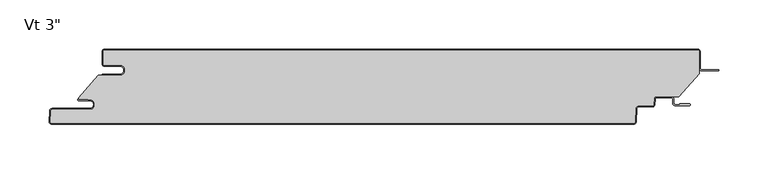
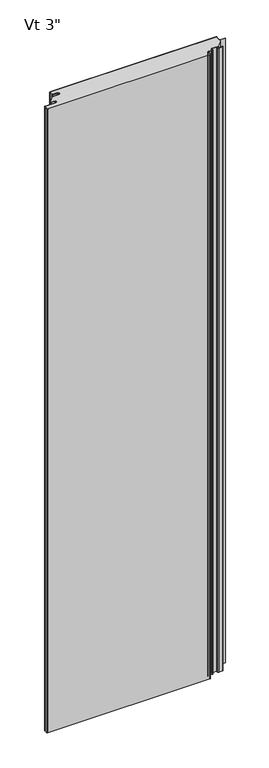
"""IFC4 building model written with IfcOpenShell, lengths in millimetres: plate geometry."""

from ifc_helpers import new_model, si_unit, point, frame, frame_2d, origin, origin_with_axes, place, context, project, spatial, polyline, circle_curve, ellipse_curve, trimmed, segment, composite_curve, outline, extrude, source, transform, mapped, element, save
from ifc_brep_helpers import plane_surface, cylinder_surface, revolved_surface, extruded_surface, advanced_brep


def plate_2396645b(model_context):
    return source(origin(), model_context, "Body", "SolidModel", [
        extrude(outline(composite_curve([segment(polyline([(-285.74375, -16.4625), (-301.61875, -16.4625)]), True, "CONTINUOUS"), segment(trimmed(circle_curve(frame_2d((-301.61875, -15.08125)), 1.38125), [point((-301.61875, -16.4625))], [point((-303.0, -15.08125))], False, "CARTESIAN"), True, "CONTINUOUS"), segment(polyline([(-303.0, -15.08125), (-303.0, -2.38125)]), True, "CONTINUOUS"), segment(trimmed(circle_curve(frame_2d((-301.61875, -2.38125)), 1.38125), [point((-303.0, -2.38125))], [point((-301.61875, -1.0))], False, "CARTESIAN"), True, "CONTINUOUS"), segment(polyline([(-301.61875, -1.0), (301.63125, -1.0)]), True, "CONTINUOUS"), segment(trimmed(circle_curve(frame_2d((301.63125, -2.38125)), 1.38125), [point((301.63125, -1.0))], [point((303.0125, -2.38125))], False, "CARTESIAN"), True, "CONTINUOUS"), segment(polyline([(303.0125, -2.38125), (303.0125, -24.9057308), (282.1955434, -48.2125), (259.7540783, -48.2125)]), True, "CONTINUOUS"), segment(trimmed(circle_curve(frame_2d((259.7540783, -50.8)), 2.5875), [point((259.7540783, -48.2125))], [point((257.1701244, -50.6645807))], True, "CARTESIAN"), True, "CONTINUOUS"), segment(polyline([(257.1701244, -50.6645807), (256.8680481, -56.428539)]), True, "CONTINUOUS"), segment(trimmed(circle_curve(frame_2d((255.4886911, -56.35625)), 1.38125), [point((256.8680481, -56.428539))], [point((255.4886911, -57.7375))], False, "CARTESIAN"), True, "CONTINUOUS"), segment(polyline([(255.4886911, -57.7375), (241.3323847, -57.7375)]), True, "CONTINUOUS"), segment(trimmed(circle_curve(frame_2d((241.3323847, -60.325)), 2.5875), [point((241.3323847, -57.7375))], [point((238.7484307, -60.1895807))], True, "CARTESIAN"), True, "CONTINUOUS"), segment(polyline([(238.7484307, -60.1895807), (238.0303677, -73.891039)]), True, "CONTINUOUS"), segment(trimmed(circle_curve(frame_2d((236.6510107, -73.81875)), 1.38125), [point((238.0303677, -73.891039))], [point((236.6510107, -75.2))], False, "CARTESIAN"), True, "CONTINUOUS"), segment(polyline([(236.6510107, -75.2), (-355.4799535, -75.2)]), True, "CONTINUOUS"), segment(trimmed(circle_curve(frame_2d((-355.4799535, -73.81875)), 1.38125), [point((-355.4799535, -75.2))], [point((-356.8593106, -73.746461))], False, "CARTESIAN"), True, "CONTINUOUS"), segment(polyline([(-356.8593106, -73.746461), (-356.2769291, -62.633961)]), True, "CONTINUOUS"), segment(trimmed(circle_curve(frame_2d((-354.8975721, -62.70625)), 1.38125), [point((-356.2769291, -62.633961))], [point((-354.8975721, -61.325))], False, "CARTESIAN"), True, "CONTINUOUS"), segment(polyline([(-354.8975721, -61.325), (-316.7142674, -61.325)]), True, "CONTINUOUS"), segment(trimmed(circle_curve(frame_2d((-316.7142674, -56.35625)), 4.96875), [point((-316.7142674, -61.325))], [point((-316.7142674, -51.3875))], True, "CARTESIAN"), True, "CONTINUOUS"), segment(polyline([(-316.7142674, -51.3875), (-318.3017674, -51.59375), (-318.3017674, -50.8), (-327.8125, -50.8), (-327.8125, -49.2157227), (-307.9260922, -26.4), (-285.74375, -26.4)]), True, "CONTINUOUS"), segment(trimmed(circle_curve(frame_2d((-285.74375, -21.43125)), 4.96875), [point((-285.74375, -26.4))], [point((-285.74375, -16.4625))], True, "CARTESIAN"), True, "CONTINUOUS")], self_intersect=False)), origin_with_axes(), (0.0, 0.0, 1.0), 2400.0),
        extrude(outline(composite_curve([segment(polyline([(-304.0, -25.4), (-285.74375, -25.4)]), True, "CONTINUOUS"), segment(trimmed(circle_curve(frame_2d((-285.74375, -21.43125)), 3.96875), [point((-285.74375, -25.4))], [point((-285.74375, -17.4625))], True, "CARTESIAN"), True, "CONTINUOUS"), segment(polyline([(-285.74375, -17.4625), (-301.61875, -17.4625)]), True, "CONTINUOUS"), segment(trimmed(circle_curve(frame_2d((-301.61875, -15.08125)), 2.38125), [point((-301.61875, -17.4625))], [point((-304.0, -15.08125))], False, "CARTESIAN"), True, "CONTINUOUS"), segment(polyline([(-304.0, -15.08125), (-304.0, -2.38125)]), True, "CONTINUOUS"), segment(trimmed(circle_curve(frame_2d((-301.61875, -2.38125)), 2.38125), [point((-304.0, -2.38125))], [point((-301.61875, 0.0))], False, "CARTESIAN"), True, "CONTINUOUS"), segment(polyline([(-301.61875, 0.0), (301.63125, 0.0)]), True, "CONTINUOUS"), segment(trimmed(circle_curve(frame_2d((301.63125, -2.38125)), 2.38125), [point((301.63125, 0.0))], [point((304.0125, -2.38125))], False, "CARTESIAN"), True, "CONTINUOUS"), segment(polyline([(304.0125, -2.38125), (304.0125, -19.446875)]), True, "CONTINUOUS"), segment(trimmed(circle_curve(frame_2d((305.6, -19.446875)), 1.5875), [point((304.0125, -19.446875))], [point((305.6, -21.034375))], True, "CARTESIAN"), True, "CONTINUOUS"), segment(polyline([(305.6, -21.034375), (323.0625, -21.034375), (323.0625, -22.034375), (305.6, -22.034375)]), True, "CONTINUOUS"), segment(trimmed(circle_curve(frame_2d((305.6, -19.446875)), 2.5875), [point((305.6, -22.034375))], [point((303.0125, -19.446875))], False, "CARTESIAN"), True, "CONTINUOUS"), segment(polyline([(303.0125, -19.446875), (303.0125, -2.38125)]), True, "CONTINUOUS"), segment(trimmed(circle_curve(frame_2d((301.63125, -2.38125)), 1.38125), [point((303.0125, -2.38125))], [point((301.63125, -1.0))], True, "CARTESIAN"), True, "CONTINUOUS"), segment(polyline([(301.63125, -1.0), (-301.61875, -1.0)]), True, "CONTINUOUS"), segment(trimmed(circle_curve(frame_2d((-301.61875, -2.38125)), 1.38125), [point((-301.61875, -1.0))], [point((-303.0, -2.38125))], True, "CARTESIAN"), True, "CONTINUOUS"), segment(polyline([(-303.0, -2.38125), (-303.0, -15.08125)]), True, "CONTINUOUS"), segment(trimmed(circle_curve(frame_2d((-301.61875, -15.08125)), 1.38125), [point((-303.0, -15.08125))], [point((-301.61875, -16.4625))], True, "CARTESIAN"), True, "CONTINUOUS"), segment(polyline([(-301.61875, -16.4625), (-285.74375, -16.4625)]), True, "CONTINUOUS"), segment(trimmed(circle_curve(frame_2d((-285.74375, -21.43125)), 4.96875), [point((-285.74375, -16.4625))], [point((-285.74375, -26.4))], False, "CARTESIAN"), True, "CONTINUOUS"), segment(polyline([(-285.74375, -26.4), (-304.0, -26.4), (-304.0, -25.4)]), True, "CONTINUOUS")], self_intersect=False)), origin_with_axes(), (0.0, 0.0, 1.0), 2400.0),
        advanced_brep(
        [(-328.0252049, -50.8, 2400.0), (-328.0252049, -52.3875, 2400.0), (-316.7142674, -52.3875, 2400.0), (-316.7142674, -60.325, 2400.0), (-354.8975721, -60.325, 2400.0), (-357.2755586, -62.581625, 2400.0), (-357.8579401, -73.694125, 2400.0), (-355.4799535, -76.2, 2400.0), (236.6510107, -76.2, 2400.0), (239.0289973, -73.943375, 2400.0), (239.7470603, -60.2419167, 2400.0), (241.3323847, -58.7375, 2400.0), (255.4886911, -58.7375, 2400.0), (257.8666776, -56.480875, 2400.0), (258.1687539, -50.7169167, 2400.0), (259.7540783, -49.2125, 2400.0), (274.6294826, -49.2125, 2400.0), (276.2169826, -50.8, 2400.0), (276.2169826, -54.9671875, 2400.0), (278.5982326, -57.3484375, 2400.0), (293.0898532, -57.3484375, 2400.0), (293.0898532, -55.5546875, 2400.0), (283.3607326, -55.5546875, 2400.0), (283.3607326, -56.3484375, 2400.0), (278.5982326, -56.3484375, 2400.0), (277.2169826, -54.9671875, 2400.0), (277.2169826, -50.8, 2400.0), (274.6294826, -48.2125, 2400.0), (259.7540783, -48.2125, 2400.0), (257.1701244, -50.6645807, 2400.0), (256.8680481, -56.428539, 2400.0), (255.4886911, -57.7375, 2400.0), (241.3323847, -57.7375, 2400.0), (238.7484307, -60.1895807, 2400.0), (238.0303677, -73.891039, 2400.0), (236.6510107, -75.2, 2400.0), (-355.4799535, -75.2, 2400.0), (-356.8593106, -73.746461, 2400.0), (-356.2769291, -62.633961, 2400.0), (-354.8975721, -61.325, 2400.0), (-316.7142674, -61.325, 2400.0), (-316.7142674, -51.3875, 2400.0), (-318.3017674, -51.59375, 2400.0), (-318.3017674, -50.8, 2400.0), (-328.0252049, -50.8, 0.0), (-318.3017674, -50.8, 0.0), (-318.3017674, -51.59375, 0.0), (-316.7142674, -51.3875, 0.0), (-316.7142674, -61.325, 0.0), (-354.8975721, -61.325, 0.0), (-356.2769291, -62.633961, 0.0), (-356.8593106, -73.746461, 0.0), (-355.4799535, -75.2, 0.0), (236.6510107, -75.2, 0.0), (238.0303677, -73.891039, 0.0), (238.7484307, -60.1895807, 0.0), (241.3323847, -57.7375, 0.0), (255.4886911, -57.7375, 0.0), (256.8680481, -56.428539, 0.0), (257.1701244, -50.6645807, 0.0), (259.7540783, -48.2125, 0.0), (274.6294826, -48.2125, 0.0), (277.2169826, -50.8, 0.0), (277.2169826, -54.9671875, 0.0), (278.5982326, -56.3484375, 0.0), (283.3607326, -56.3484375, 0.0), (283.3607326, -55.5546875, 0.0), (293.0898532, -55.5546875, 0.0), (293.0898532, -57.3484375, 0.0), (278.5982326, -57.3484375, 0.0), (276.2169826, -54.9671875, 0.0), (276.2169826, -50.8, 0.0), (274.6294826, -49.2125, 0.0), (259.7540783, -49.2125, 0.0), (258.1687539, -50.7169167, 0.0), (257.8666776, -56.480875, 0.0), (255.4886911, -58.7375, 0.0), (241.3323847, -58.7375, 0.0), (239.7470603, -60.2419167, 0.0), (239.0289973, -73.943375, 0.0), (236.6510107, -76.2, 0.0), (-355.4799535, -76.2, 0.0), (-357.8579401, -73.694125, 0.0), (-357.2755586, -62.581625, 0.0), (-354.8975721, -60.325, 0.0), (-316.7142674, -60.325, 0.0), (-316.7142674, -52.3875, 0.0), (-328.0252049, -52.3875, 0.0)],
        [
            (0, 1, circle_curve(frame((-328.0252049, -51.59375, 2400.0), z_axis=(0.0, 0.0, 1.0), x_axis=(1.0, 0.0, 0.0)), 0.79375)),
            (1, 2),
            (2, 3, circle_curve(frame((-316.7142674, -56.35625, 2400.0), z_axis=(0.0, 0.0, -1.0), x_axis=(1.0, 0.0, 0.0)), 3.96875)),
            (3, 4),
            (4, 5, circle_curve(frame((-354.8975721, -62.70625, 2400.0), z_axis=(0.0, 0.0, 1.0), x_axis=(1.0, 0.0, 0.0)), 2.38125)),
            (5, 6),
            (6, 7, circle_curve(frame((-355.4799535, -73.81875, 2400.0), z_axis=(0.0, 0.0, 1.0), x_axis=(1.0, 0.0, 0.0)), 2.38125)),
            (7, 8),
            (8, 9, circle_curve(frame((236.6510107, -73.81875, 2400.0), z_axis=(0.0, 0.0, 1.0), x_axis=(1.0, 0.0, 0.0)), 2.38125)),
            (9, 10),
            (10, 11, circle_curve(frame((241.3323847, -60.325, 2400.0), z_axis=(0.0, 0.0, -1.0), x_axis=(1.0, 0.0, 0.0)), 1.5875)),
            (11, 12),
            (12, 13, circle_curve(frame((255.4886911, -56.35625, 2400.0), z_axis=(0.0, 0.0, 1.0), x_axis=(1.0, 0.0, 0.0)), 2.38125)),
            (13, 14),
            (14, 15, circle_curve(frame((259.7540783, -50.8, 2400.0), z_axis=(0.0, 0.0, -1.0), x_axis=(1.0, 0.0, 0.0)), 1.5875)),
            (15, 16),
            (16, 17, circle_curve(frame((274.6294826, -50.8, 2400.0), z_axis=(0.0, 0.0, -1.0), x_axis=(1.0, 0.0, 0.0)), 1.5875)),
            (17, 18),
            (18, 19, circle_curve(frame((278.5982326, -54.9671875, 2400.0), z_axis=(0.0, 0.0, 1.0), x_axis=(1.0, 0.0, 0.0)), 2.38125)),
            (19, 20),
            (20, 21, ellipse_curve(frame((293.0898532, -56.4515625, 2400.0), z_axis=(0.0, 0.0, 1.0), x_axis=(0.0, 1.0, 0.0)), 0.896875, 0.7852275)),
            (21, 22),
            (22, 23),
            (23, 24),
            (24, 25, circle_curve(frame((278.5982326, -54.9671875, 2400.0), z_axis=(0.0, 0.0, -1.0), x_axis=(1.0, 0.0, 0.0)), 1.38125)),
            (25, 26),
            (26, 27, circle_curve(frame((274.6294826, -50.8, 2400.0), z_axis=(0.0, 0.0, 1.0), x_axis=(1.0, 0.0, 0.0)), 2.5875)),
            (27, 28),
            (28, 29, circle_curve(frame((259.7540783, -50.8, 2400.0), z_axis=(0.0, 0.0, 1.0), x_axis=(1.0, 0.0, 0.0)), 2.5875)),
            (29, 30),
            (30, 31, circle_curve(frame((255.4886911, -56.35625, 2400.0), z_axis=(0.0, 0.0, -1.0), x_axis=(1.0, 0.0, 0.0)), 1.38125)),
            (31, 32),
            (32, 33, circle_curve(frame((241.3323847, -60.325, 2400.0), z_axis=(0.0, 0.0, 1.0), x_axis=(1.0, 0.0, 0.0)), 2.5875)),
            (33, 34),
            (34, 35, circle_curve(frame((236.6510107, -73.81875, 2400.0), z_axis=(0.0, 0.0, -1.0), x_axis=(1.0, 0.0, 0.0)), 1.38125)),
            (35, 36),
            (36, 37, circle_curve(frame((-355.4799535, -73.81875, 2400.0), z_axis=(0.0, 0.0, -1.0), x_axis=(1.0, 0.0, 0.0)), 1.38125)),
            (37, 38),
            (38, 39, circle_curve(frame((-354.8975721, -62.70625, 2400.0), z_axis=(0.0, 0.0, -1.0), x_axis=(1.0, 0.0, 0.0)), 1.38125)),
            (39, 40),
            (40, 41, circle_curve(frame((-316.7142674, -56.35625, 2400.0), z_axis=(0.0, 0.0, 1.0), x_axis=(1.0, 0.0, 0.0)), 4.96875)),
            (41, 42),
            (42, 43),
            (43, 0),
            (44, 45),
            (45, 46),
            (46, 47),
            (47, 48, circle_curve(frame((-316.7142674, -56.35625, 0.0), z_axis=(0.0, 0.0, -1.0), x_axis=(1.0, 0.0, 0.0)), 4.96875)),
            (48, 49),
            (49, 50, circle_curve(frame((-354.8975721, -62.70625, 0.0), z_axis=(0.0, 0.0, 1.0), x_axis=(1.0, 0.0, 0.0)), 1.38125)),
            (50, 51),
            (51, 52, circle_curve(frame((-355.4799535, -73.81875, 0.0), z_axis=(0.0, 0.0, 1.0), x_axis=(1.0, 0.0, 0.0)), 1.38125)),
            (52, 53),
            (53, 54, circle_curve(frame((236.6510107, -73.81875, 0.0), z_axis=(0.0, 0.0, 1.0), x_axis=(1.0, 0.0, 0.0)), 1.38125)),
            (54, 55),
            (55, 56, circle_curve(frame((241.3323847, -60.325, 0.0), z_axis=(0.0, 0.0, -1.0), x_axis=(1.0, 0.0, 0.0)), 2.5875)),
            (56, 57),
            (57, 58, circle_curve(frame((255.4886911, -56.35625, 0.0), z_axis=(0.0, 0.0, 1.0), x_axis=(1.0, 0.0, 0.0)), 1.38125)),
            (58, 59),
            (59, 60, circle_curve(frame((259.7540783, -50.8, 0.0), z_axis=(0.0, 0.0, -1.0), x_axis=(1.0, 0.0, 0.0)), 2.5875)),
            (60, 61),
            (61, 62, circle_curve(frame((274.6294826, -50.8, 0.0), z_axis=(0.0, 0.0, -1.0), x_axis=(1.0, 0.0, 0.0)), 2.5875)),
            (62, 63),
            (63, 64, circle_curve(frame((278.5982326, -54.9671875, 0.0), z_axis=(0.0, 0.0, 1.0), x_axis=(1.0, 0.0, 0.0)), 1.38125)),
            (64, 65),
            (65, 66),
            (66, 67),
            (67, 68, ellipse_curve(frame((293.0898532, -56.4515625, 0.0), z_axis=(0.0, 0.0, -1.0), x_axis=(0.0, 1.0, 0.0)), 0.896875, 0.7852275)),
            (68, 69),
            (69, 70, circle_curve(frame((278.5982326, -54.9671875, 0.0), z_axis=(0.0, 0.0, -1.0), x_axis=(1.0, 0.0, 0.0)), 2.38125)),
            (70, 71),
            (71, 72, circle_curve(frame((274.6294826, -50.8, 0.0), z_axis=(0.0, 0.0, 1.0), x_axis=(1.0, 0.0, 0.0)), 1.5875)),
            (72, 73),
            (73, 74, circle_curve(frame((259.7540783, -50.8, 0.0), z_axis=(0.0, 0.0, 1.0), x_axis=(1.0, 0.0, 0.0)), 1.5875)),
            (74, 75),
            (75, 76, circle_curve(frame((255.4886911, -56.35625, 0.0), z_axis=(0.0, 0.0, -1.0), x_axis=(1.0, 0.0, 0.0)), 2.38125)),
            (76, 77),
            (77, 78, circle_curve(frame((241.3323847, -60.325, 0.0), z_axis=(0.0, 0.0, 1.0), x_axis=(1.0, 0.0, 0.0)), 1.5875)),
            (78, 79),
            (79, 80, circle_curve(frame((236.6510107, -73.81875, 0.0), z_axis=(0.0, 0.0, -1.0), x_axis=(1.0, 0.0, 0.0)), 2.38125)),
            (80, 81),
            (81, 82, circle_curve(frame((-355.4799535, -73.81875, 0.0), z_axis=(0.0, 0.0, -1.0), x_axis=(1.0, 0.0, 0.0)), 2.38125)),
            (82, 83),
            (83, 84, circle_curve(frame((-354.8975721, -62.70625, 0.0), z_axis=(0.0, 0.0, -1.0), x_axis=(1.0, 0.0, 0.0)), 2.38125)),
            (84, 85),
            (85, 86, circle_curve(frame((-316.7142674, -56.35625, 0.0), z_axis=(0.0, 0.0, 1.0), x_axis=(1.0, 0.0, 0.0)), 3.96875)),
            (86, 87),
            (87, 44, circle_curve(frame((-328.0252049, -51.59375, 0.0), z_axis=(0.0, 0.0, -1.0), x_axis=(1.0, 0.0, 0.0)), 0.79375)),
            (43, 45),
            (44, 0),
            (87, 1),
            (86, 2),
            (85, 3),
            (84, 4),
            (83, 5),
            (82, 6),
            (81, 7),
            (80, 8),
            (79, 9),
            (78, 10),
            (77, 11),
            (76, 12),
            (75, 13),
            (74, 14),
            (73, 15),
            (38, 50),
            (49, 39),
            (37, 51),
            (36, 52),
            (35, 53),
            (34, 54),
            (33, 55),
            (32, 56),
            (31, 57),
            (30, 58),
            (29, 59),
            (28, 60),
            (23, 65),
            (64, 24),
            (63, 25),
            (62, 26),
            (72, 16),
            (71, 17),
            (70, 18),
            (69, 19),
            (68, 20),
            (27, 61),
            (48, 40),
            (47, 41),
            (42, 46),
            (22, 66),
            (21, 67),
        ],
        [
            plane_surface(frame((0.00625, -76.2, 2400.0), z_axis=(0.0, 0.0, 1.0), x_axis=(0.0, -1.0, 0.0))),
            plane_surface(frame((0.00625, -76.2, 0.0), z_axis=(0.0, 0.0, -1.0), x_axis=(0.0, -1.0, 0.0))),
            plane_surface(frame((-328.0252049, -50.8, 2400.0), z_axis=(0.0, 1.0, 0.0), x_axis=(0.0, 0.0, -1.0))),
            cylinder_surface(frame((-328.0252049, -51.59375, 2400.0), z_axis=(0.0, 0.0, 1.0), x_axis=(1.0, 0.0, 0.0)), 0.79375),
            plane_surface(frame((-316.7142674, -52.3875, 2400.0), z_axis=(0.0, -1.0, 0.0), x_axis=(0.0, 0.0, -1.0))),
            revolved_surface(polyline([(-312.7455174, -56.35625, 0.0), (-312.7455174, -56.35625, 2400.0)]), (-316.7142674, -56.35625, 2400.0), (0.0, 0.0, -1.0)),
            plane_surface(frame((-354.8975721, -60.325, 2400.0), z_axis=(0.0, 1.0, 0.0), x_axis=(0.0, 0.0, -1.0))),
            cylinder_surface(frame((-354.8975721, -62.70625, 2400.0), z_axis=(0.0, 0.0, 1.0), x_axis=(1.0, 0.0, 0.0)), 2.38125),
            plane_surface(frame((-357.8579401, -73.694125, 2400.0), z_axis=(-0.9986295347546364, 0.05233595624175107, 0.0), x_axis=(0.0, 0.0, -1.0))),
            cylinder_surface(frame((-355.4799535, -73.81875, 2400.0), z_axis=(0.0, 0.0, 1.0), x_axis=(1.0, 0.0, 0.0)), 2.38125),
            plane_surface(frame((236.6510107, -76.2, 2400.0), z_axis=(0.0, -1.0, 0.0), x_axis=(0.0, 0.0, -1.0))),
            cylinder_surface(frame((236.6510107, -73.81875, 2400.0), z_axis=(0.0, 0.0, 1.0), x_axis=(1.0, 0.0, 0.0)), 2.38125),
            plane_surface(frame((239.7470603, -60.2419167, 2400.0), z_axis=(0.9986295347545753, -0.05233595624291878, 0.0), x_axis=(0.0, 0.0, -1.0))),
            revolved_surface(polyline([(242.9198847, -60.325, 0.0), (242.9198847, -60.325, 2400.0)]), (241.3323847, -60.325, 2400.0), (0.0, 0.0, -1.0)),
            plane_surface(frame((255.4886911, -58.7375, 2400.0), z_axis=(0.0, -1.0, 0.0), x_axis=(0.0, 0.0, -1.0))),
            cylinder_surface(frame((255.4886911, -56.35625, 2400.0), z_axis=(0.0, 0.0, 1.0), x_axis=(1.0, 0.0, 0.0)), 2.38125),
            plane_surface(frame((258.1687539, -50.7169167, 2400.0), z_axis=(0.9986295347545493, -0.052335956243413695, 0.0), x_axis=(0.0, 0.0, -1.0))),
            revolved_surface(polyline([(261.3415783, -50.8, 0.0), (261.3415783, -50.8, 2400.0)]), (259.7540783, -50.8, 2400.0), (0.0, 0.0, -1.0)),
            revolved_surface(polyline([(-353.51632209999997, -62.70625, 0.0), (-353.51632209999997, -62.70625, 2400.0)]), (-354.8975721, -62.70625, 2400.0), (0.0, 0.0, -1.0)),
            plane_surface(frame((-356.2769291, -62.633961, 2400.0), z_axis=(0.9986295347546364, -0.05233595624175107, 0.0), x_axis=(0.0, 0.0, -1.0))),
            revolved_surface(polyline([(-354.0987035, -73.81875, 0.0), (-354.0987035, -73.81875, 2400.0)]), (-355.4799535, -73.81875, 2400.0), (0.0, 0.0, -1.0)),
            plane_surface(frame((-355.4799535, -75.2, 2400.0), z_axis=(0.0, 1.0, 0.0), x_axis=(0.0, 0.0, -1.0))),
            revolved_surface(polyline([(238.0322607, -73.81875, 0.0), (238.0322607, -73.81875, 2400.0)]), (236.6510107, -73.81875, 2400.0), (0.0, 0.0, -1.0)),
            plane_surface(frame((238.0303677, -73.891039, 2400.0), z_axis=(-0.9986295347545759, 0.052335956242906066, 0.0), x_axis=(0.0, 0.0, -1.0))),
            cylinder_surface(frame((241.3323847, -60.325, 2400.0), z_axis=(0.0, 0.0, 1.0), x_axis=(1.0, 0.0, 0.0)), 2.5875),
            plane_surface(frame((241.3323847, -57.7375, 2400.0), z_axis=(0.0, 1.0, 0.0), x_axis=(0.0, 0.0, -1.0))),
            revolved_surface(polyline([(256.8699411, -56.35625, 0.0), (256.8699411, -56.35625, 2400.0)]), (255.4886911, -56.35625, 2400.0), (0.0, 0.0, -1.0)),
            plane_surface(frame((256.8680481, -56.428539, 2400.0), z_axis=(-0.998629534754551, 0.05233595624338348, 0.0), x_axis=(0.0, 0.0, -1.0))),
            cylinder_surface(frame((259.7540783, -50.8, 2400.0), z_axis=(0.0, 0.0, 1.0), x_axis=(1.0, 0.0, 0.0)), 2.5875),
            plane_surface(frame((278.5982326, -56.3484375, 2400.0), z_axis=(0.0, 1.0, 0.0), x_axis=(0.0, 0.0, -1.0))),
            revolved_surface(polyline([(279.97948260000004, -54.9671875, 0.0), (279.97948260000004, -54.9671875, 2400.0)]), (278.5982326, -54.9671875, 2400.0), (0.0, 0.0, -1.0)),
            plane_surface(frame((277.2169826, -50.8, 2400.0), z_axis=(1.0, 0.0, 0.0), x_axis=(0.0, 0.0, -1.0))),
            plane_surface(frame((274.6294826, -49.2125, 2400.0), z_axis=(0.0, -1.0, 0.0), x_axis=(0.0, 0.0, -1.0))),
            revolved_surface(polyline([(276.2169826, -50.8, 0.0), (276.2169826, -50.8, 2400.0)]), (274.6294826, -50.8, 2400.0), (0.0, 0.0, -1.0)),
            plane_surface(frame((276.2169826, -54.9671875, 2400.0), z_axis=(-1.0, 0.0, 0.0), x_axis=(0.0, 0.0, -1.0))),
            cylinder_surface(frame((278.5982326, -54.9671875, 2400.0), z_axis=(0.0, 0.0, 1.0), x_axis=(1.0, 0.0, 0.0)), 2.38125),
            plane_surface(frame((293.0898532, -57.3484375, 2400.0), z_axis=(0.0, -1.0, 0.0), x_axis=(0.0, 0.0, -1.0))),
            plane_surface(frame((259.7540783, -48.2125, 2400.0), z_axis=(0.0, 1.0, 0.0), x_axis=(0.0, 0.0, -1.0))),
            cylinder_surface(frame((274.6294826, -50.8, 2400.0), z_axis=(0.0, 0.0, 1.0), x_axis=(1.0, 0.0, 0.0)), 2.5875),
            plane_surface(frame((-316.7142674, -61.325, 2400.0), z_axis=(0.0, -1.0, 0.0), x_axis=(0.0, 0.0, -1.0))),
            cylinder_surface(frame((-316.7142674, -56.35625, 2400.0), z_axis=(0.0, 0.0, 1.0), x_axis=(1.0, 0.0, 0.0)), 4.96875),
            plane_surface(frame((-318.3017674, -50.8, 2400.0), z_axis=(1.0, 0.0, 0.0), x_axis=(0.0, 0.0, -1.0))),
            plane_surface(frame((-318.3017674, -51.59375, 2400.0), z_axis=(-0.12883844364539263, 0.9916655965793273, 0.0), x_axis=(0.0, 0.0, -1.0))),
            plane_surface(frame((283.3607326, -56.3484375, 2400.0), z_axis=(-1.0, 0.0, 0.0), x_axis=(0.0, 0.0, -1.0))),
            plane_surface(frame((283.3607326, -55.5546875, 2400.0), z_axis=(0.0, 1.0, 0.0), x_axis=(0.0, 0.0, -1.0))),
            extruded_surface(trimmed(ellipse_curve(frame((293.0898532, -56.4515625, 2400.0), z_axis=(0.0, 0.0, -1.0), x_axis=(0.0, 1.0, 0.0)), 0.896875, 0.7852275), [point((293.0898532, -55.5546875, 2400.0))], [point((293.0898532, -57.3484375, 2400.0))], True, "CARTESIAN"), (0.0, 0.0, -2400.0), 2400.0),
        ],
        [
            (0, [[1, 2, 3, 4, 5, 6, 7, 8, 9, 10, 11, 12, 13, 14, 15, 16, 17, 18, 19, 20, 21, 22, 23, 24, 25, 26, 27, 28, 29, 30, 31, 32, 33, 34, 35, 36, 37, 38, 39, 40, 41, 42, 43, 44]]),
            (1, [[45, 46, 47, 48, 49, 50, 51, 52, 53, 54, 55, 56, 57, 58, 59, 60, 61, 62, 63, 64, 65, 66, 67, 68, 69, 70, 71, 72, 73, 74, 75, 76, 77, 78, 79, 80, 81, 82, 83, 84, 85, 86, 87, 88]]),
            (2, [[89, -45, 90, -44]]),
            (3, [[-90, -88, 91, -1]]),
            (4, [[-91, -87, 92, -2]]),
            (5, [[-92, -86, 93, -3]]),
            (6, [[-93, -85, 94, -4]]),
            (7, [[-94, -84, 95, -5]]),
            (8, [[-95, -83, 96, -6]]),
            (9, [[-96, -82, 97, -7]]),
            (10, [[-97, -81, 98, -8]]),
            (11, [[-98, -80, 99, -9]]),
            (12, [[-99, -79, 100, -10]]),
            (13, [[-100, -78, 101, -11]]),
            (14, [[-101, -77, 102, -12]]),
            (15, [[-102, -76, 103, -13]]),
            (16, [[-103, -75, 104, -14]]),
            (17, [[-104, -74, 105, -15]]),
            (18, [[106, -50, 107, -39]]),
            (19, [[108, -51, -106, -38]]),
            (20, [[109, -52, -108, -37]]),
            (21, [[110, -53, -109, -36]]),
            (22, [[111, -54, -110, -35]]),
            (23, [[112, -55, -111, -34]]),
            (24, [[113, -56, -112, -33]]),
            (25, [[114, -57, -113, -32]]),
            (26, [[115, -58, -114, -31]]),
            (27, [[116, -59, -115, -30]]),
            (28, [[117, -60, -116, -29]]),
            (29, [[118, -65, 119, -24]]),
            (30, [[-119, -64, 120, -25]]),
            (31, [[-120, -63, 121, -26]]),
            (32, [[-105, -73, 122, -16]]),
            (33, [[-122, -72, 123, -17]]),
            (34, [[-123, -71, 124, -18]]),
            (35, [[-124, -70, 125, -19]]),
            (36, [[-125, -69, 126, -20]]),
            (37, [[127, -61, -117, -28]]),
            (38, [[-121, -62, -127, -27]]),
            (39, [[-107, -49, 128, -40]]),
            (40, [[-128, -48, 129, -41]]),
            (41, [[130, -46, -89, -43]]),
            (42, [[-129, -47, -130, -42]]),
            (43, [[131, -66, -118, -23]]),
            (44, [[132, -67, -131, -22]]),
            (45, [[-126, -68, -132, -21]]),
        ],
    ),
    ])


if __name__ == "__main__":
    model = new_model("IFC4")
    model_context = context("Model", 3, world=origin())
    ifc_project = project(units=[si_unit("LENGTHUNIT", "METRE", prefix="MILLI")], contexts=[model_context])
    site = spatial("IfcSite", under=ifc_project)
    building = spatial("IfcBuilding", under=site)
    placement = place(None, origin())
    plate_shape = plate_2396645b(model_context)
    element("IfcPlate", 1, ObjectType="KIP-24-DWHR-R19-CP-Vt-F : Vt 3\"", at=placement, inside=building, context=model_context, shape_type="MappedRepresentation", body=[
        mapped(plate_shape, transform((0.0, 0.0, 0.0), x_axis=(1.0, 0.0, 0.0), y_axis=(0.0, 1.0, 0.0), z_axis=(0.0, 0.0, 1.0))),
    ])
    save(model, "model.ifc")
